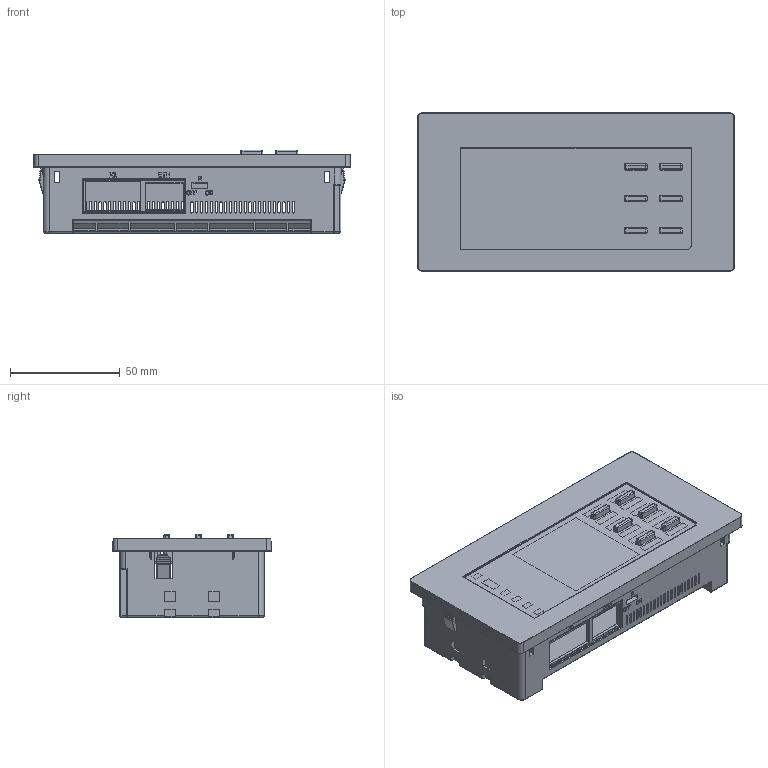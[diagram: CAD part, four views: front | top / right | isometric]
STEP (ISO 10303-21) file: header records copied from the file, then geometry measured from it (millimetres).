
FILE_DESCRIPTION (( 'STEP AP214' ), '1' );
FILE_NAME ('FP200 - 144x72.STEP', '2015-11-11T10:33:56', ( 'User' ), ( 'Bender' ), 'SwSTEP 2.0', 'SolidWorks 2015', '' );
FILE_SCHEMA (( 'AUTOMOTIVE_DESIGN' ));
Length unit declared in the file: millimetre
Products named in the file (2): FP200 - 144x72
Bounding box: 144 x 72 x 38 mm (x, y, z)
Volume: 73526.7 mm3; surface area: 85404.9 mm2
Topology: 5 solids, 5 shells, 3442 faces, 8663 edges, 5133 vertices
Faces by surface type: cylinder 1301, plane 1218, bspline 310, torus 259, sphere 206, cone 148
Entity records: 148303 total; most frequent: CARTESIAN_POINT 30463, ORIENTED_EDGE 16942, DIRECTION 16472, EDGE_CURVE 8471, AXIS2_PLACEMENT_3D 5814, VERTEX_POINT 5117, LINE 4844, VECTOR 4844
